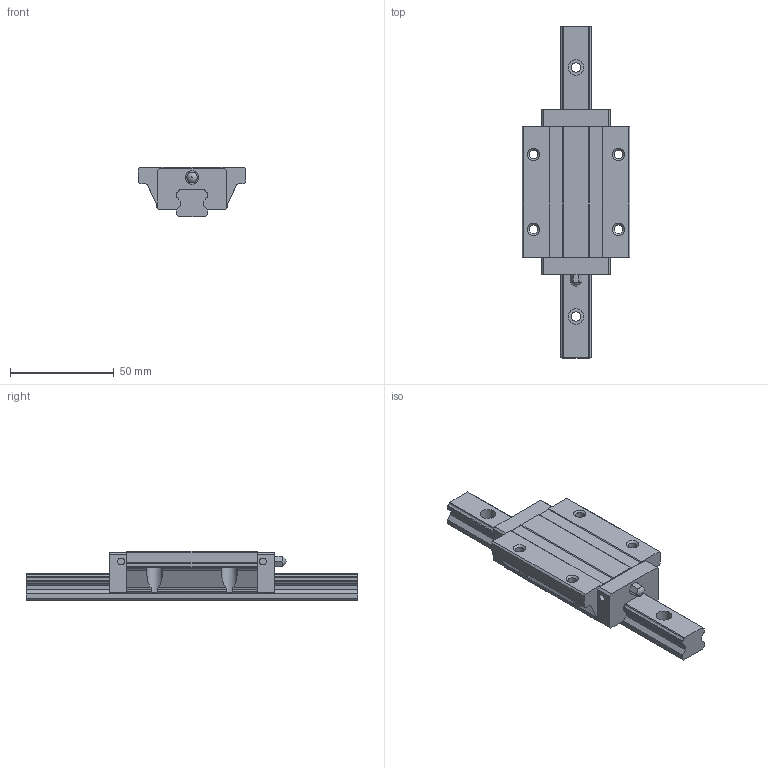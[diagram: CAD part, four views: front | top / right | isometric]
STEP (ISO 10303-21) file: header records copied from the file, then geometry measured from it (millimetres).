
FILE_DESCRIPTION(/* description */ (''),/* implementation_level */ '2;1');
FILE_NAME(/* name */ 'SME15-LEB',/* time_stamp */ '2009-06-12T14:04:33+08:00',/* author */ (''),/* organization */ (''),/* preprocessor_version */ 'ST-DEVELOPER v11',/* originating_system */ 'UGS - NX 5.0',/* authorisation */ '');
FILE_SCHEMA (('CONFIG_CONTROL_DESIGN'));
Length unit declared in the file: millimetre
Products named in the file (1): jill3C1A421q
Bounding box: 52 x 160 x 24 mm (x, y, z)
Volume: 82146.9 mm3; surface area: 24460.2 mm2
Topology: 2 solids, 3 shells, 172 faces, 478 edges, 320 vertices
Faces by surface type: plane 104, cylinder 60, cone 4, sphere 2, bspline 2
Full cylindrical faces by diameter (mm): 3.3 x4, 4 x7, 4.2 x4, 4.5 x3, 6.5 x2, 7.5 x3
Entity records: 7010 total; most frequent: CARTESIAN_POINT 2753, DIRECTION 854, ORIENTED_EDGE 844, EDGE_CURVE 422, VERTEX_POINT 294, LINE 288, VECTOR 288, AXIS2_PLACEMENT_3D 283
